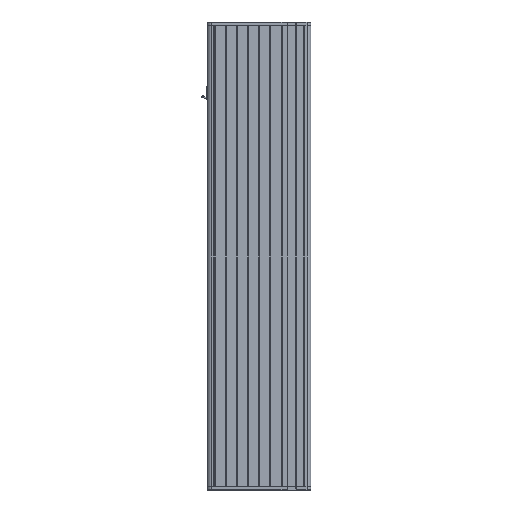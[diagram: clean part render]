
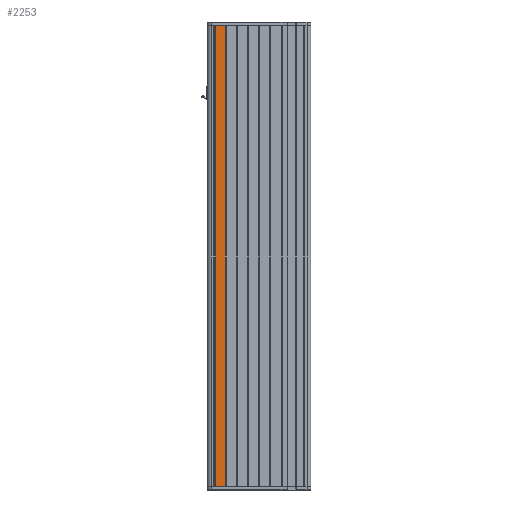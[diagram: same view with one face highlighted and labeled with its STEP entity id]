
A CAD part, front view. The second image highlights one B-rep face of the part: STEP entity #2253.
In plain terms, the highlighted planar face has unit normal (0, -1, 0).
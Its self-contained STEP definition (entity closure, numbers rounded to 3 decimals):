
#2046 = DIRECTION ( 'NONE',  ( -1., 0., 0. ) ) ;
#2253 = ADVANCED_FACE ( 'NONE', ( #3542 ), #3473, .F. ) ;
#3473 = PLANE ( 'NONE',  #18890 ) ;
#3542 = FACE_OUTER_BOUND ( 'NONE', #13072, .T. ) ;
#3654 = LINE ( 'NONE', #19330, #25528 ) ;
#4082 = CARTESIAN_POINT ( 'NONE',  ( -47.222, -30.895, 444. ) ) ;
#4311 = CARTESIAN_POINT ( 'NONE',  ( -60.364, -30.895, -158. ) ) ;
#4747 = VECTOR ( 'NONE', #19509, 1000. ) ;
#8726 = ORIENTED_EDGE ( 'NONE', *, *, #19194, .T. ) ;
#8844 = CARTESIAN_POINT ( 'NONE',  ( -2.605, -30.895, 444. ) ) ;
#11144 = VERTEX_POINT ( 'NONE', #4082 ) ;
#12214 = VERTEX_POINT ( 'NONE', #24478 ) ;
#13072 = EDGE_LOOP ( 'NONE', ( #20829, #8726, #15818, #14450 ) ) ;
#13913 = CARTESIAN_POINT ( 'NONE',  ( -60.364, -30.895, 444. ) ) ;
#14450 = ORIENTED_EDGE ( 'NONE', *, *, #18745, .F. ) ;
#15111 = VECTOR ( 'NONE', #19490, 1000. ) ;
#15195 = DIRECTION ( 'NONE',  ( 1., 0., 0. ) ) ;
#15292 = CARTESIAN_POINT ( 'NONE',  ( -2.605, -30.895, -158. ) ) ;
#15818 = ORIENTED_EDGE ( 'NONE', *, *, #20250, .F. ) ;
#15977 = LINE ( 'NONE', #23769, #4747 ) ;
#16758 = DIRECTION ( 'NONE',  ( 0., 1., 0. ) ) ;
#18745 = EDGE_CURVE ( 'NONE', #24570, #11144, #15977, .T. ) ;
#18890 = AXIS2_PLACEMENT_3D ( 'NONE', #8844, #16758, #2046 ) ;
#19194 = EDGE_CURVE ( 'NONE', #21285, #12214, #20927, .T. ) ;
#19330 = CARTESIAN_POINT ( 'NONE',  ( -47.222, -30.895, 444. ) ) ;
#19490 = DIRECTION ( 'NONE',  ( 0., 0., -1. ) ) ;
#19509 = DIRECTION ( 'NONE',  ( 1., 0., 0. ) ) ;
#20250 = EDGE_CURVE ( 'NONE', #11144, #12214, #3654, .T. ) ;
#20267 = VECTOR ( 'NONE', #15195, 1000. ) ;
#20829 = ORIENTED_EDGE ( 'NONE', *, *, #22384, .T. ) ;
#20927 = LINE ( 'NONE', #15292, #20267 ) ;
#21285 = VERTEX_POINT ( 'NONE', #4311 ) ;
#21605 = CARTESIAN_POINT ( 'NONE',  ( -60.364, -30.895, 444. ) ) ;
#22384 = EDGE_CURVE ( 'NONE', #24570, #21285, #26431, .T. ) ;
#23769 = CARTESIAN_POINT ( 'NONE',  ( -2.605, -30.895, 444. ) ) ;
#24478 = CARTESIAN_POINT ( 'NONE',  ( -47.222, -30.895, -158. ) ) ;
#24570 = VERTEX_POINT ( 'NONE', #13913 ) ;
#25528 = VECTOR ( 'NONE', #25831, 1000. ) ;
#25831 = DIRECTION ( 'NONE',  ( 0., 0., -1. ) ) ;
#26431 = LINE ( 'NONE', #21605, #15111 ) ;
